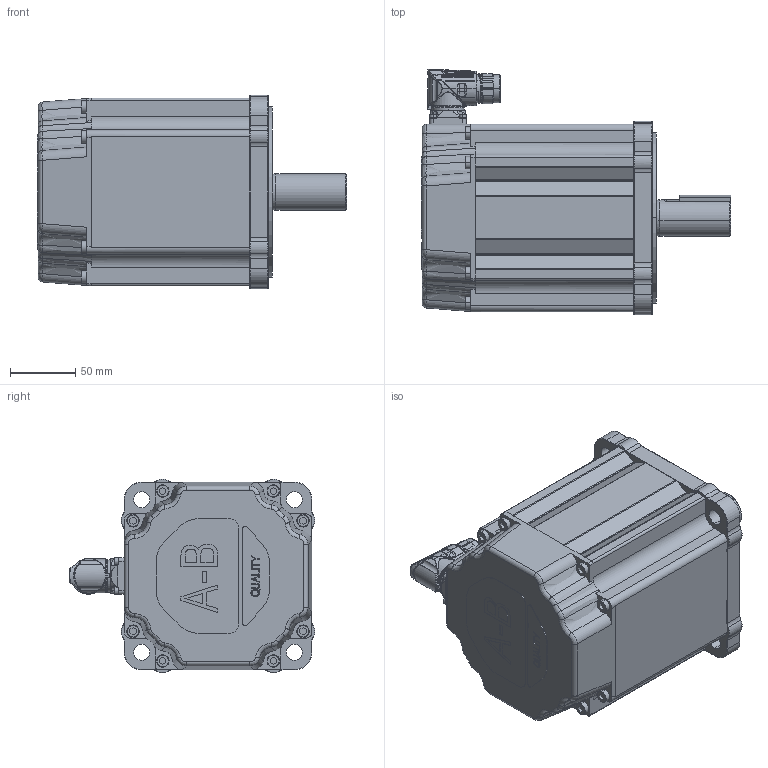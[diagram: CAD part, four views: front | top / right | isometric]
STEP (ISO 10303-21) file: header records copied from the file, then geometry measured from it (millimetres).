
FILE_DESCRIPTION (( 'STEP AP214' ), '1' );
FILE_NAME ('Rockwell Automation-$PARTNUMBER.STEP', '2014-05-03T14:00:06', ( 'Windows User' ), ( '' ), 'SwSTEP 2.0', 'SolidWorks 2014', '' );
FILE_SCHEMA (( 'AUTOMOTIVE_DESIGN' ));
Length unit declared in the file: inch
Products named in the file (9): Rockwell Automation-$PARTNUMBER_Rockwell Automation-VPL-x1651x-xJx2xx_10000014326-1; Rockwell Automation-$PARTNUMBER_Rockwell Automation-VPL-x1651x-xJx2xx_10000014325-1; Rockwell Automation-$PARTNUMBER_Rockwell Automation-VPL-x1651x-xJx2xx_10000540833; Rockwell Automation-$PARTNUMBER_Rockwell Automation-VPL-x1651x-xJx2xx_VPL-165-Shaft_1651-SHAFT-KEYED; Rockwell Automation-$PARTNUMBER_Rockwell Automation-VPL-x1651x-xJx2xx_VPL-165-Body_1651; Rockwell Automation-$PARTNUMBER; Rockwell Automation-$PARTNUMBER_Rockwell Automation-VPL-x1651x-xJx2xx_91290A115_ANY; Rockwell Automation-$PARTNUMBER_Rockwell Automation-VPL-x1651x-xJx2xx_M23_Connector; Rockwell Automation-$PARTNUMBER_Rockwell Automation-VPL-x1651x-xJx2xx_10000014326-M23_ASM
Assembly tree (11 placements, depth 4):
  Rockwell Automation-$PARTNUMBER
    Rockwell Automation-$PARTNUMBER_Rockwell Automation-VPL-x1651x-xJx2xx_VPL-165-Body_1651
    Rockwell Automation-$PARTNUMBER_Rockwell Automation-VPL-x1651x-xJx2xx_VPL-165-Shaft_1651-SHAFT-KEYED
    Rockwell Automation-$PARTNUMBER_Rockwell Automation-VPL-x1651x-xJx2xx_M23_Connector
      Rockwell Automation-$PARTNUMBER_Rockwell Automation-VPL-x1651x-xJx2xx_10000540833
      Rockwell Automation-$PARTNUMBER_Rockwell Automation-VPL-x1651x-xJx2xx_10000014325-1
      Rockwell Automation-$PARTNUMBER_Rockwell Automation-VPL-x1651x-xJx2xx_10000014326-M23_ASM
        Rockwell Automation-$PARTNUMBER_Rockwell Automation-VPL-x1651x-xJx2xx_10000014326-1
    Rockwell Automation-$PARTNUMBER_Rockwell Automation-VPL-x1651x-xJx2xx_91290A115_ANY  x4
Bounding box: 236.52 x 187.85 x 148.08 mm (x, y, z)
Volume: 2075866.1 mm3; surface area: 260432.4 mm2
Topology: 8 solids, 14 shells, 2626 faces, 7242 edges, 4682 vertices
Faces by surface type: plane 809, cylinder 798, bspline 754, cone 251, torus 14
Entity records: 160464 total; most frequent: CARTESIAN_POINT 82756, ORIENTED_EDGE 14053, DIRECTION 8268, EDGE_CURVE 7033, VERTEX_POINT 4580, B_SPLINE_CURVE_WITH_KNOTS 3430, AXIS2_PLACEMENT_3D 3005, EDGE_LOOP 2687
